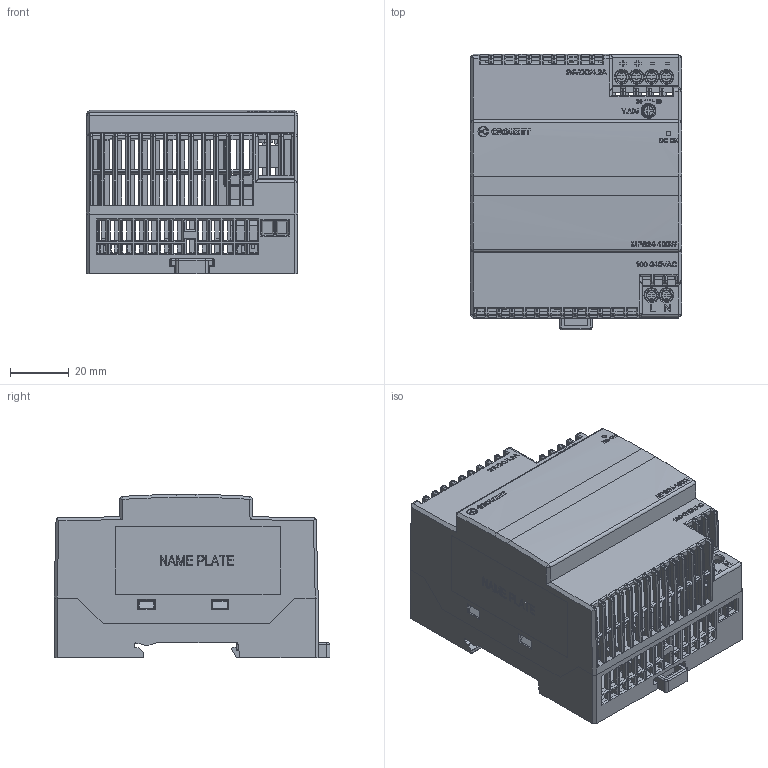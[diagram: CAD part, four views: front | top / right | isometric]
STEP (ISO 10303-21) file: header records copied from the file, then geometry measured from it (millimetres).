
FILE_DESCRIPTION (( 'STEP AP214' ), '1' );
FILE_NAME ('MPS24-100W.STEP', '2019-03-05T02:58:34', ( '' ), ( '' ), 'SwSTEP 2.0', 'SolidWorks 2017', '' );
FILE_SCHEMA (( 'AUTOMOTIVE_DESIGN' ));
Length unit declared in the file: millimetre
Products named in the file (11): MPS24-100W; CCB181; MB312-508M02; Chassis_crouzet; Label; Din clip_crouzet; CT-6EMS_______; CCB180; DRL100 BASE PILOT; name plate_crouzet; cover_crouzet
Assembly tree (12 placements, depth 4):
  MPS24-100W
    DRL100 BASE PILOT
      cover_crouzet
      CCB180
        MB312-508M02  x3
      CCB181
        CT-6EMS_______
    Chassis_crouzet
    Din clip_crouzet
    name plate_crouzet
    Label
Bounding box: 72.15 x 94 x 55.6 mm (x, y, z)
Volume: 57168.5 mm3; surface area: 71203.8 mm2
Topology: 9 solids, 11 shells, 3481 faces, 11202 edges, 7686 vertices
Faces by surface type: plane 1937, cylinder 1051, torus 247, bspline 105, sphere 76, cone 65
Entity records: 133970 total; most frequent: CARTESIAN_POINT 36599, ORIENTED_EDGE 21436, DIRECTION 17509, EDGE_CURVE 10718, VERTEX_POINT 7450, LINE 7191, VECTOR 7191, AXIS2_PLACEMENT_3D 5159
